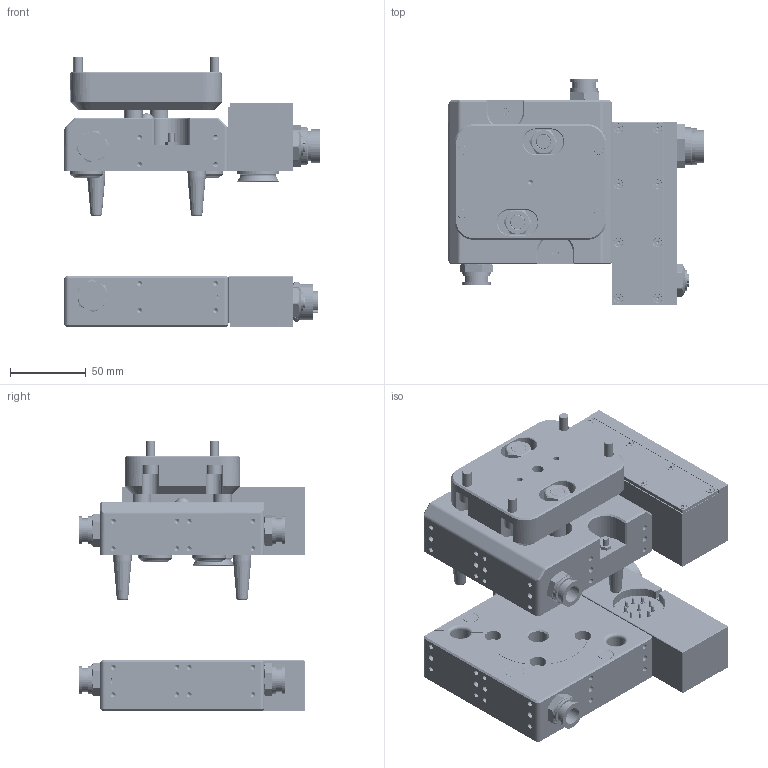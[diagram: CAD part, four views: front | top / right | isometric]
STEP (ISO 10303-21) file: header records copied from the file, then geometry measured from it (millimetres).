
FILE_DESCRIPTION(/* description */ (''),/* implementation_level */ '2;1');
FILE_NAME(/* name */ 'ECM-GK2-2.stp',/* time_stamp */ '2023-12-05T15:42:45+08:00',/* author */ (''),/* organization */ (''),/* preprocessor_version */ 'ST-DEVELOPER v16.7',/* originating_system */ 'SIEMENS PLM Software NX 12.0',/* authorisation */ '');
FILE_SCHEMA (('AUTOMOTIVE_DESIGN { 1 0 10303 214 3 1 1 1 }'));
Products named in the file (1): _model26
Bounding box: 168.01 x 148.4 x 178.04 mm (x, y, z)
Volume: 1128503.8 mm3; surface area: 257572 mm2
Topology: 2 solids, 120 shells, 4720 faces, 11354 edges, 6965 vertices
Faces by surface type: plane 1840, cylinder 1490, cone 982, torus 281, bspline 105, sphere 22
Full cylindrical faces by diameter (mm): 3.2 x5, 4 x1, 7 x1, 20 x2
Entity records: 174911 total; most frequent: CARTESIAN_POINT 38872, DIRECTION 23751, ORIENTED_EDGE 22168, EDGE_CURVE 11084, AXIS2_PLACEMENT_3D 9369, VERTEX_POINT 6966, EDGE_LOOP 5305, LINE 5013
